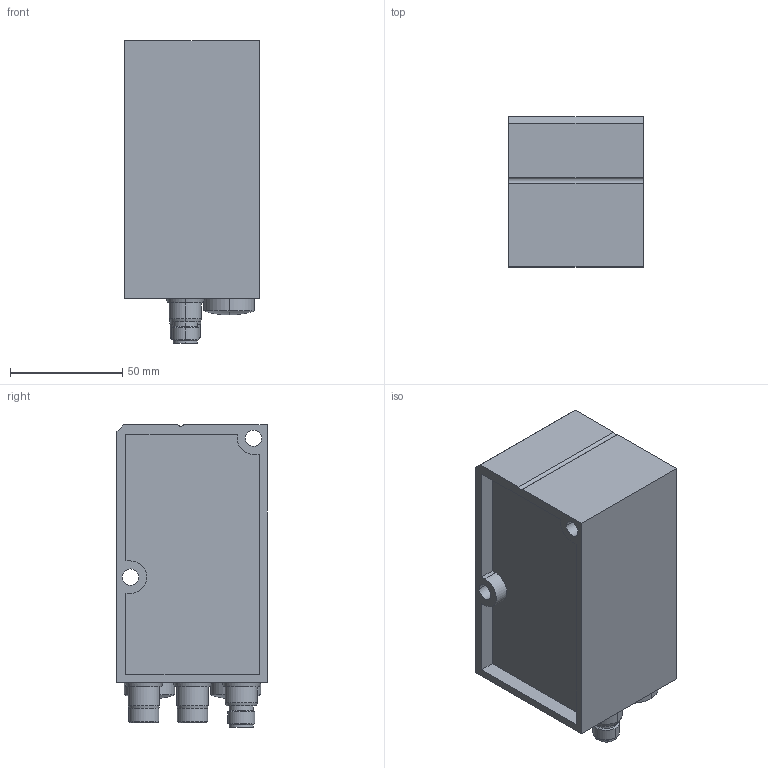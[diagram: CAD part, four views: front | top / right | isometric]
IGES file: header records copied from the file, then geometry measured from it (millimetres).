
Start section:  PTC IGES file: r412014581.igs
Global section: file name: r412014581.igs; native system: Creo Elements/Pro by Parametric Technology Corporation; preprocessor: 2012421; author: vol1hc; organization: Unknown; date: 20150729.164928; units: millimetre
Bounding box: 60 x 67 x 135 mm (x, y, z)
Surface area: 46197.4 mm2 (no closed solid volume)
Topology: 0 solids, 0 shells, 323 faces, 1648 edges, 1648 vertices
Faces by surface type: bspline 248, revolution 75
